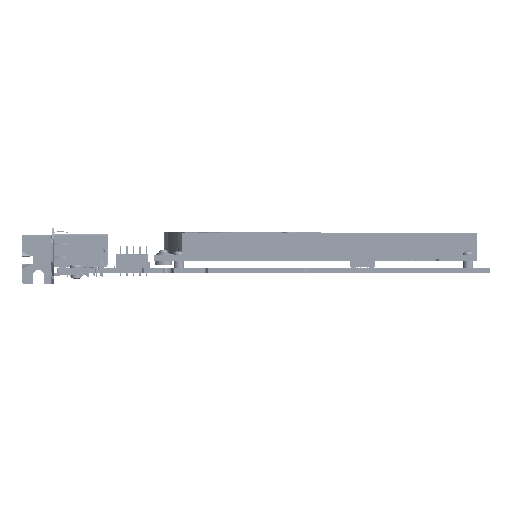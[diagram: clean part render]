
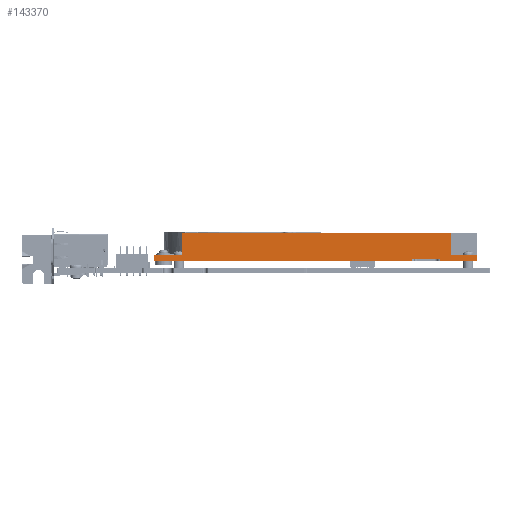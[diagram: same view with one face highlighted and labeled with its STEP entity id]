
A CAD part, left-side view. The second image highlights one B-rep face of the part: STEP entity #143370.
In plain terms, the highlighted planar face has unit normal (-1, 0, 0) as drawn and (0, 0, -1) by its records, which use the part's own axes.
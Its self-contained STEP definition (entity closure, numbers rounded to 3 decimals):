
#139231=DIRECTION('',(1.,0.,0.));
#139232=VECTOR('',#139231,10.8);
#139233=CARTESIAN_POINT('',(559.71,505.793,454.011));
#139234=LINE('',#139233,#139232);
#139294=DIRECTION('',(0.,-1.,0.));
#139295=VECTOR('',#139294,2.);
#139296=CARTESIAN_POINT('',(570.51,505.793,454.011));
#139297=LINE('',#139296,#139295);
#139448=DIRECTION('',(-1.,0.,0.));
#139449=VECTOR('',#139448,14.339);
#139450=CARTESIAN_POINT('',(460.003,503.793,454.011));
#139451=LINE('',#139450,#139449);
#139488=DIRECTION('',(-1.,0.,0.));
#139489=VECTOR('',#139488,99.657);
#139490=CARTESIAN_POINT('',(570.51,503.793,454.011));
#139491=LINE('',#139490,#139489);
#139751=DIRECTION('',(0.,-1.,0.));
#139752=VECTOR('',#139751,0.5);
#139753=CARTESIAN_POINT('',(460.003,504.293,454.011));
#139754=LINE('',#139753,#139752);
#139803=DIRECTION('',(0.,1.,0.));
#139804=VECTOR('',#139803,0.5);
#139805=CARTESIAN_POINT('',(470.853,503.793,454.011));
#139806=LINE('',#139805,#139804);
#139807=DIRECTION('',(1.,0.,0.));
#139808=VECTOR('',#139807,10.85);
#139809=CARTESIAN_POINT('',(460.003,504.293,454.011));
#139810=LINE('',#139809,#139808);
#139819=DIRECTION('',(0.,-1.,0.));
#139820=VECTOR('',#139819,8.6);
#139821=CARTESIAN_POINT('',(559.71,514.393,454.011));
#139822=LINE('',#139821,#139820);
#139831=DIRECTION('',(1.,0.,0.));
#139832=VECTOR('',#139831,104.025);
#139833=CARTESIAN_POINT('',(455.685,514.393,454.011));
#139834=LINE('',#139833,#139832);
#139835=DIRECTION('',(0.,1.,0.));
#139836=VECTOR('',#139835,8.6);
#139837=CARTESIAN_POINT('',(455.685,505.793,454.011));
#139838=LINE('',#139837,#139836);
#139863=DIRECTION('',(1.,0.,0.));
#139864=VECTOR('',#139863,10.02);
#139865=CARTESIAN_POINT('',(445.665,505.793,454.011));
#139866=LINE('',#139865,#139864);
#140722=DIRECTION('',(0.,1.,0.));
#140723=VECTOR('',#140722,2.);
#140724=CARTESIAN_POINT('',(445.665,503.793,454.011));
#140725=LINE('',#140724,#140723);
#141918=CARTESIAN_POINT('',(445.665,505.793,454.011));
#141919=VERTEX_POINT('',#141918);
#141920=CARTESIAN_POINT('',(455.685,505.793,454.011));
#141921=VERTEX_POINT('',#141920);
#141928=CARTESIAN_POINT('',(559.71,505.793,454.011));
#141929=VERTEX_POINT('',#141928);
#141930=CARTESIAN_POINT('',(570.51,505.793,454.011));
#141931=VERTEX_POINT('',#141930);
#142284=CARTESIAN_POINT('',(570.51,503.793,454.011));
#142285=VERTEX_POINT('',#142284);
#142309=CARTESIAN_POINT('',(460.003,503.793,454.011));
#142311=VERTEX_POINT('',#142309);
#142312=CARTESIAN_POINT('',(445.665,503.793,454.011));
#142313=VERTEX_POINT('',#142312);
#142332=CARTESIAN_POINT('',(470.853,503.793,454.011));
#142333=VERTEX_POINT('',#142332);
#142670=CARTESIAN_POINT('',(470.853,504.293,454.011));
#142671=VERTEX_POINT('',#142670);
#142672=CARTESIAN_POINT('',(460.003,504.293,454.011));
#142673=VERTEX_POINT('',#142672);
#142698=CARTESIAN_POINT('',(559.71,514.393,454.011));
#142699=VERTEX_POINT('',#142698);
#142700=CARTESIAN_POINT('',(455.685,514.393,454.011));
#142701=VERTEX_POINT('',#142700);
#143346=CARTESIAN_POINT('',(507.697,509.593,454.011));
#143347=DIRECTION('',(0.,0.,1.));
#143348=DIRECTION('',(1.,0.,0.));
#143349=AXIS2_PLACEMENT_3D('',#143346,#143347,#143348);
#143350=PLANE('',#143349);
#143351=ORIENTED_EDGE('',*,*,#143265,.F.);
#143352=ORIENTED_EDGE('',*,*,#143307,.T.);
#143353=ORIENTED_EDGE('',*,*,#143340,.F.);
#143354=ORIENTED_EDGE('',*,*,#143084,.F.);
#143355=ORIENTED_EDGE('',*,*,#142878,.F.);
#143356=ORIENTED_EDGE('',*,*,#142789,.F.);
#143358=ORIENTED_EDGE('',*,*,#143357,.F.);
#143360=ORIENTED_EDGE('',*,*,#143359,.F.);
#143362=ORIENTED_EDGE('',*,*,#143361,.F.);
#143364=ORIENTED_EDGE('',*,*,#143363,.F.);
#143366=ORIENTED_EDGE('',*,*,#143365,.F.);
#143367=ORIENTED_EDGE('',*,*,#143062,.F.);
#143368=EDGE_LOOP('',(#143351,#143352,#143353,#143354,#143355,#143356,#143358,
#143360,#143362,#143364,#143366,#143367));
#143369=FACE_OUTER_BOUND('',#143368,.F.);
#143370=ADVANCED_FACE('',(#143369),#143350,.F.);
#142789=EDGE_CURVE('',#141929,#141931,#139234,.T.);
#142878=EDGE_CURVE('',#141931,#142285,#139297,.T.);
#143062=EDGE_CURVE('',#142311,#142313,#139451,.T.);
#143084=EDGE_CURVE('',#142285,#142333,#139491,.T.);
#143265=EDGE_CURVE('',#142673,#142311,#139754,.T.);
#143307=EDGE_CURVE('',#142673,#142671,#139810,.T.);
#143340=EDGE_CURVE('',#142333,#142671,#139806,.T.);
#143357=EDGE_CURVE('',#142699,#141929,#139822,.T.);
#143359=EDGE_CURVE('',#142701,#142699,#139834,.T.);
#143361=EDGE_CURVE('',#141921,#142701,#139838,.T.);
#143363=EDGE_CURVE('',#141919,#141921,#139866,.T.);
#143365=EDGE_CURVE('',#142313,#141919,#140725,.T.);
